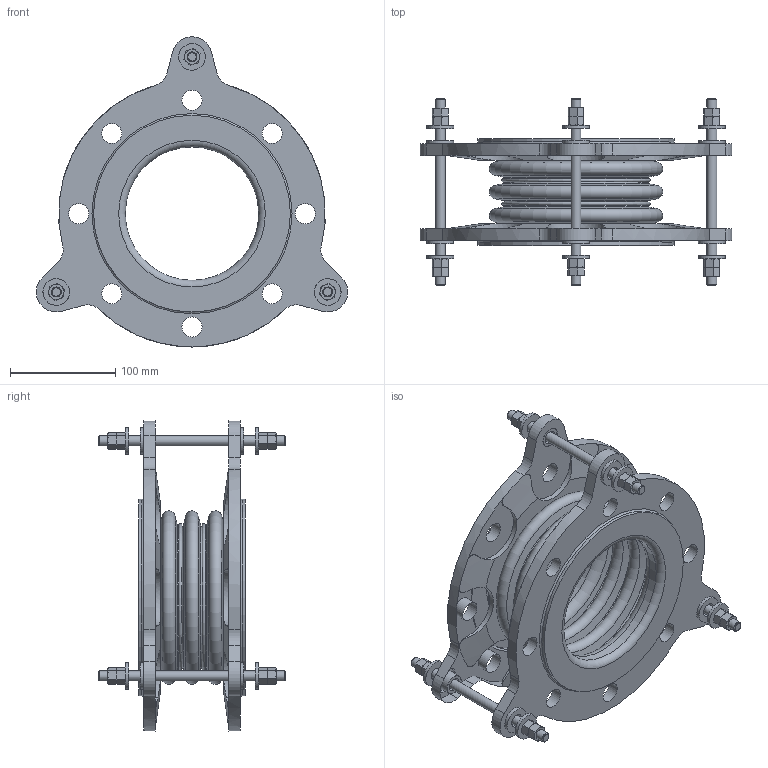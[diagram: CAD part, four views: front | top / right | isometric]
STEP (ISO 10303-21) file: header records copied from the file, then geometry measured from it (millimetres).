
FILE_DESCRIPTION(/* description */ (''),/* implementation_level */ '2;1');
FILE_NAME(/* name */ 'C:\Users\rramoutar\Desktop\803\803 5IDx4FF.stp',/* time_stamp */ '2016-04-24T17:38:01-04:00',/* author */ ('rramoutar'),/* organization */ ('Mason Industries Inc.'),/* preprocessor_version */ 'ST-DEVELOPER v15.6',/* originating_system */ 'Autodesk Inventor 2015',/* authorisation */ '');
FILE_SCHEMA (('CONFIG_CONTROL_DESIGN'));
Length unit declared in the file: inch
Products named in the file (1): 803 5IDx4FF
Bounding box: 296.42 x 177.8 x 295.2 mm (x, y, z)
Volume: 1411747.6 mm3; surface area: 405952.9 mm2
Topology: 6 solids, 6 shells, 529 faces, 1177 edges, 704 vertices
Faces by surface type: plane 184, cone 178, cylinder 141, torus 26
Full cylindrical faces by diameter (mm): 9.525 x9, 11.112 x6, 13.097 x6, 18.653 x6, 19.05 x22, 25.4 x12, 127 x2, 133.35 x2, 134.938 x2, 187.325 x2
Entity records: 14770 total; most frequent: CARTESIAN_POINT 3660, DIRECTION 2180, ORIENTED_EDGE 2116, EDGE_CURVE 1058, AXIS2_PLACEMENT_3D 976, EDGE_LOOP 734, VERTEX_POINT 696, FACE_OUTER_BOUND 529
